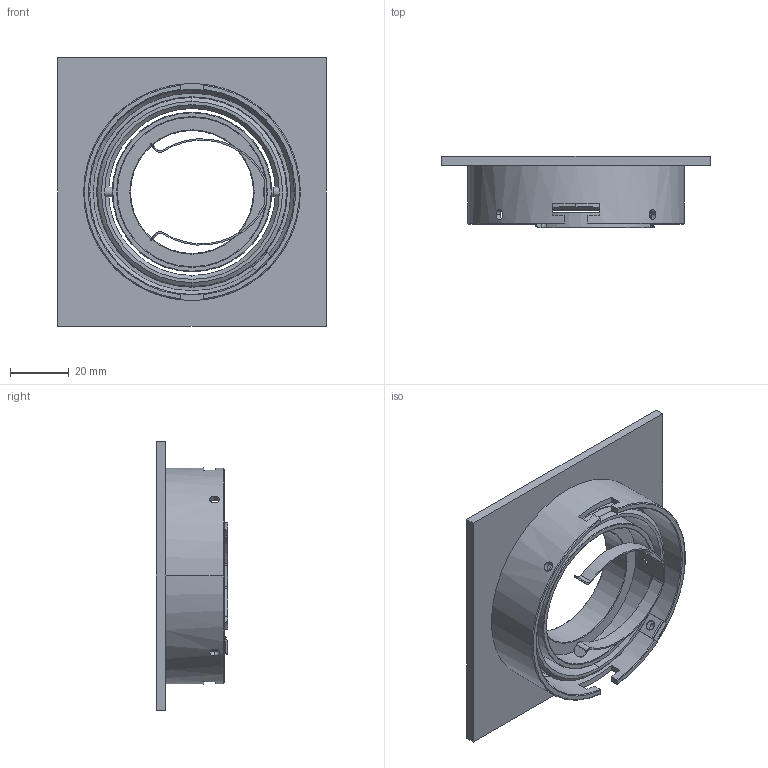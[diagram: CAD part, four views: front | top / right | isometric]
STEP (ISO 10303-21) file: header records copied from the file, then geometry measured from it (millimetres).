
FILE_DESCRIPTION(/* description */ (''),/* implementation_level */ '2;1');
FILE_NAME(/* name */ 'C:\Users\Franco Sartori E\Documents\FARO\DUPLICADO\Modelos\01_Digitalizados\1_3D_2D\1_COCOTTE\03_Publicación\43396.stp',/* time_stamp */ '2020-07-28T13:10:56+02:00',/* author */ ('Franco Sartori E'),/* organization */ (''),/* preprocessor_version */ 'ST-DEVELOPER v18',/* originating_system */ 'AutoCAD Mechanical',/* authorisation */ '');
FILE_SCHEMA (('AUTOMOTIVE_DESIGN { 1 0 10303 214 3 1 1 }'));
Length unit declared in the file: millimetre
Products named in the file (2): Product; 43396_43406 - RADON-413547-_3D_
Assembly tree (1 placements, depth 2):
  Product
    43396_43406 - RADON-413547-_3D_
Bounding box: 91.5 x 24.24 x 91.5 mm (x, y, z)
Volume: 45619.7 mm3; surface area: 40346.3 mm2
Topology: 7 solids, 9 shells, 170 faces, 454 edges, 294 vertices
Faces by surface type: cylinder 79, plane 64, cone 27
Entity records: 6770 total; most frequent: CARTESIAN_POINT 2442, DIRECTION 888, ORIENTED_EDGE 876, EDGE_CURVE 454, AXIS2_PLACEMENT_3D 334, VERTEX_POINT 294, LINE 220, VECTOR 220
